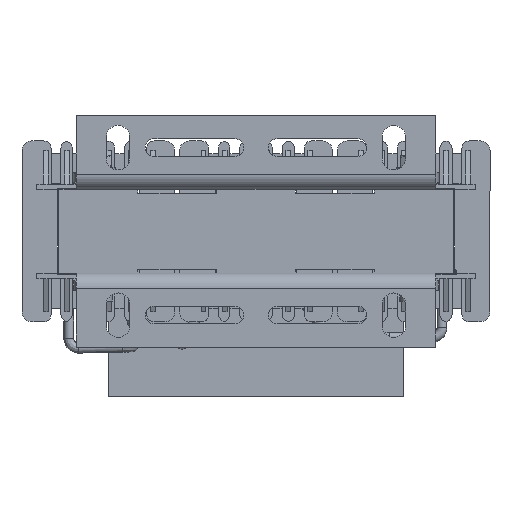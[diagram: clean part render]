
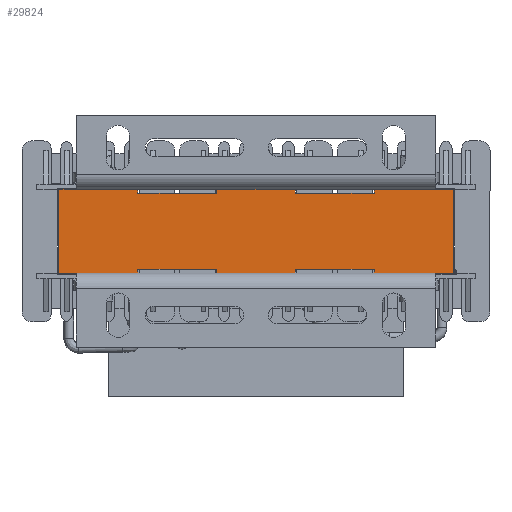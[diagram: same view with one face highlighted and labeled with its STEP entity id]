
A CAD part, front view. The second image highlights one B-rep face of the part: STEP entity #29824.
In plain terms, the highlighted planar face has unit normal (0, -1, 0).
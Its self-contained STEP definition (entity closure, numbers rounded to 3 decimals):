
#3844=CARTESIAN_POINT('',(79.743,-95.239,-63.615));
#3845=VERTEX_POINT('',#3844);
#3852=CARTESIAN_POINT('',(79.743,-95.239,-80.615));
#3853=VERTEX_POINT('',#3852);
#3854=CARTESIAN_POINT('',(79.743,-95.239,-63.615));
#3855=DIRECTION('',(0.0,0.0,-1.0));
#3856=VECTOR('',#3855,17.0);
#3857=LINE('',#3854,#3856);
#3858=EDGE_CURVE('',#3845,#3853,#3857,.T.);
#14839=CARTESIAN_POINT('',(-0.257,-95.239,-63.615));
#14840=VERTEX_POINT('',#14839);
#14847=CARTESIAN_POINT('',(15.743,-95.239,-63.615));
#14848=VERTEX_POINT('',#14847);
#14849=CARTESIAN_POINT('',(15.743,-95.239,-63.615));
#14850=DIRECTION('',(-1.0,0.0,0.0));
#14851=VECTOR('',#14850,16.0);
#14852=LINE('',#14849,#14851);
#14853=EDGE_CURVE('',#14848,#14840,#14852,.T.);
#14873=CARTESIAN_POINT('',(63.743,-95.239,-63.615));
#14874=VERTEX_POINT('',#14873);
#14881=CARTESIAN_POINT('',(79.743,-95.239,-63.615));
#14882=DIRECTION('',(-1.0,0.0,0.0));
#14883=VECTOR('',#14882,16.0);
#14884=LINE('',#14881,#14883);
#14885=EDGE_CURVE('',#3845,#14874,#14884,.T.);
#17231=CARTESIAN_POINT('',(15.743,-95.239,-64.415));
#17232=VERTEX_POINT('',#17231);
#17239=CARTESIAN_POINT('',(31.743,-95.239,-64.415));
#17240=VERTEX_POINT('',#17239);
#17241=CARTESIAN_POINT('',(31.743,-95.239,-64.415));
#17242=DIRECTION('',(-1.0,0.0,0.0));
#17243=VECTOR('',#17242,16.);
#17244=LINE('',#17241,#17243);
#17245=EDGE_CURVE('',#17240,#17232,#17244,.T.);
#17354=CARTESIAN_POINT('',(3.243,-95.239,-80.615));
#17355=VERTEX_POINT('',#17354);
#17362=CARTESIAN_POINT('',(-0.257,-95.239,-80.615));
#17363=VERTEX_POINT('',#17362);
#17364=CARTESIAN_POINT('',(3.243,-95.239,-80.615));
#17365=DIRECTION('',(-1.0,0.0,0.0));
#17366=VECTOR('',#17365,3.5);
#17367=LINE('',#17364,#17366);
#17368=EDGE_CURVE('',#17355,#17363,#17367,.T.);
#17838=CARTESIAN_POINT('',(15.743,-95.239,-80.615));
#17839=VERTEX_POINT('',#17838);
#17846=CARTESIAN_POINT('',(15.743,-95.239,-80.615));
#17847=DIRECTION('',(-1.0,0.0,0.0));
#17848=VECTOR('',#17847,12.5);
#17849=LINE('',#17846,#17848);
#17850=EDGE_CURVE('',#17839,#17355,#17849,.T.);
#17868=CARTESIAN_POINT('',(76.243,-95.239,-80.615));
#17869=VERTEX_POINT('',#17868);
#17876=CARTESIAN_POINT('',(63.743,-95.239,-80.615));
#17877=VERTEX_POINT('',#17876);
#17878=CARTESIAN_POINT('',(76.243,-95.239,-80.615));
#17879=DIRECTION('',(-1.0,0.0,0.0));
#17880=VECTOR('',#17879,12.5);
#17881=LINE('',#17878,#17880);
#17882=EDGE_CURVE('',#17869,#17877,#17881,.T.);
#17908=CARTESIAN_POINT('',(47.743,-95.239,-80.615));
#17909=VERTEX_POINT('',#17908);
#17916=CARTESIAN_POINT('',(31.743,-95.239,-80.615));
#17917=VERTEX_POINT('',#17916);
#17918=CARTESIAN_POINT('',(47.743,-95.239,-80.615));
#17919=DIRECTION('',(-1.0,0.0,0.0));
#17920=VECTOR('',#17919,16.);
#17921=LINE('',#17918,#17920);
#17922=EDGE_CURVE('',#17909,#17917,#17921,.T.);
#17974=CARTESIAN_POINT('',(15.743,-95.239,-79.815));
#17975=VERTEX_POINT('',#17974);
#17992=CARTESIAN_POINT('',(31.743,-95.239,-79.815));
#17993=VERTEX_POINT('',#17992);
#18000=CARTESIAN_POINT('',(15.743,-95.239,-79.815));
#18001=DIRECTION('',(1.0,0.0,0.0));
#18002=VECTOR('',#18001,16.);
#18003=LINE('',#18000,#18002);
#18004=EDGE_CURVE('',#17975,#17993,#18003,.T.);
#18081=CARTESIAN_POINT('',(31.743,-95.239,-63.615));
#18082=VERTEX_POINT('',#18081);
#18089=CARTESIAN_POINT('',(47.743,-95.239,-63.615));
#18090=VERTEX_POINT('',#18089);
#18091=CARTESIAN_POINT('',(47.743,-95.239,-63.615));
#18092=DIRECTION('',(-1.0,0.0,0.0));
#18093=VECTOR('',#18092,16.0);
#18094=LINE('',#18091,#18093);
#18095=EDGE_CURVE('',#18090,#18082,#18094,.T.);
#18727=CARTESIAN_POINT('',(47.743,-95.239,-79.815));
#18728=VERTEX_POINT('',#18727);
#18745=CARTESIAN_POINT('',(63.743,-95.239,-79.815));
#18746=VERTEX_POINT('',#18745);
#18753=CARTESIAN_POINT('',(47.743,-95.239,-79.815));
#18754=DIRECTION('',(1.0,0.0,0.0));
#18755=VECTOR('',#18754,16.);
#18756=LINE('',#18753,#18755);
#18757=EDGE_CURVE('',#18728,#18746,#18756,.T.);
#19039=CARTESIAN_POINT('',(47.743,-95.239,-64.415));
#19040=VERTEX_POINT('',#19039);
#19047=CARTESIAN_POINT('',(63.743,-95.239,-64.415));
#19048=VERTEX_POINT('',#19047);
#19049=CARTESIAN_POINT('',(63.743,-95.239,-64.415));
#19050=DIRECTION('',(-1.0,0.0,0.0));
#19051=VECTOR('',#19050,16.);
#19052=LINE('',#19049,#19051);
#19053=EDGE_CURVE('',#19048,#19040,#19052,.T.);
#19193=CARTESIAN_POINT('',(79.743,-95.239,-80.615));
#19194=DIRECTION('',(-1.0,0.0,0.0));
#19195=VECTOR('',#19194,3.5);
#19196=LINE('',#19193,#19195);
#19197=EDGE_CURVE('',#3853,#17869,#19196,.T.);
#29483=CARTESIAN_POINT('',(-0.257,-95.239,-63.615));
#29484=DIRECTION('',(0.0,0.0,-1.0));
#29485=VECTOR('',#29484,17.0);
#29486=LINE('',#29483,#29485);
#29487=EDGE_CURVE('',#14840,#17363,#29486,.T.);
#29755=CARTESIAN_POINT('',(79.743,-95.239,-72.115));
#29756=DIRECTION('',(0.0,-1.0,0.0));
#29757=DIRECTION('',(0.0,0.0,-1.0));
#29758=AXIS2_PLACEMENT_3D('',#29755,#29756,#29757);
#29759=PLANE('',#29758);
#29760=ORIENTED_EDGE('',*,*,#19053,.T.);
#29761=CARTESIAN_POINT('',(47.743,-95.239,-64.415));
#29762=DIRECTION('',(0.0,0.0,1.0));
#29763=VECTOR('',#29762,0.8);
#29764=LINE('',#29761,#29763);
#29765=EDGE_CURVE('',#19040,#18090,#29764,.T.);
#29766=ORIENTED_EDGE('',*,*,#29765,.T.);
#29767=ORIENTED_EDGE('',*,*,#18095,.T.);
#29768=CARTESIAN_POINT('',(31.743,-95.239,-64.415));
#29769=DIRECTION('',(0.0,0.0,1.0));
#29770=VECTOR('',#29769,0.8);
#29771=LINE('',#29768,#29770);
#29772=EDGE_CURVE('',#17240,#18082,#29771,.T.);
#29773=ORIENTED_EDGE('',*,*,#29772,.F.);
#29774=ORIENTED_EDGE('',*,*,#17245,.T.);
#29775=CARTESIAN_POINT('',(15.743,-95.239,-64.415));
#29776=DIRECTION('',(0.0,0.0,1.0));
#29777=VECTOR('',#29776,0.8);
#29778=LINE('',#29775,#29777);
#29779=EDGE_CURVE('',#17232,#14848,#29778,.T.);
#29780=ORIENTED_EDGE('',*,*,#29779,.T.);
#29781=ORIENTED_EDGE('',*,*,#14853,.T.);
#29782=ORIENTED_EDGE('',*,*,#29487,.T.);
#29783=ORIENTED_EDGE('',*,*,#17368,.F.);
#29784=ORIENTED_EDGE('',*,*,#17850,.F.);
#29785=CARTESIAN_POINT('',(15.743,-95.239,-80.615));
#29786=DIRECTION('',(0.0,0.0,1.0));
#29787=VECTOR('',#29786,0.8);
#29788=LINE('',#29785,#29787);
#29789=EDGE_CURVE('',#17839,#17975,#29788,.T.);
#29790=ORIENTED_EDGE('',*,*,#29789,.T.);
#29791=ORIENTED_EDGE('',*,*,#18004,.T.);
#29792=CARTESIAN_POINT('',(31.743,-95.239,-80.615));
#29793=DIRECTION('',(0.0,0.0,1.0));
#29794=VECTOR('',#29793,0.8);
#29795=LINE('',#29792,#29794);
#29796=EDGE_CURVE('',#17917,#17993,#29795,.T.);
#29797=ORIENTED_EDGE('',*,*,#29796,.F.);
#29798=ORIENTED_EDGE('',*,*,#17922,.F.);
#29799=CARTESIAN_POINT('',(47.743,-95.239,-80.615));
#29800=DIRECTION('',(0.0,0.0,1.0));
#29801=VECTOR('',#29800,0.8);
#29802=LINE('',#29799,#29801);
#29803=EDGE_CURVE('',#17909,#18728,#29802,.T.);
#29804=ORIENTED_EDGE('',*,*,#29803,.T.);
#29805=ORIENTED_EDGE('',*,*,#18757,.T.);
#29806=CARTESIAN_POINT('',(63.743,-95.239,-80.615));
#29807=DIRECTION('',(0.0,0.0,1.0));
#29808=VECTOR('',#29807,0.8);
#29809=LINE('',#29806,#29808);
#29810=EDGE_CURVE('',#17877,#18746,#29809,.T.);
#29811=ORIENTED_EDGE('',*,*,#29810,.F.);
#29812=ORIENTED_EDGE('',*,*,#17882,.F.);
#29813=ORIENTED_EDGE('',*,*,#19197,.F.);
#29814=ORIENTED_EDGE('',*,*,#3858,.F.);
#29815=ORIENTED_EDGE('',*,*,#14885,.T.);
#29816=CARTESIAN_POINT('',(63.743,-95.239,-64.415));
#29817=DIRECTION('',(0.0,0.0,1.0));
#29818=VECTOR('',#29817,0.8);
#29819=LINE('',#29816,#29818);
#29820=EDGE_CURVE('',#19048,#14874,#29819,.T.);
#29821=ORIENTED_EDGE('',*,*,#29820,.F.);
#29822=EDGE_LOOP('',(#29760,#29766,#29767,#29773,#29774,#29780,#29781,#29782,#29783,#29784,#29790,#29791,#29797,#29798,#29804,#29805,#29811,#29812,#29813,#29814,#29815,#29821));
#29823=FACE_OUTER_BOUND('',#29822,.T.);
#29824=ADVANCED_FACE('',(#29823),#29759,.T.);
